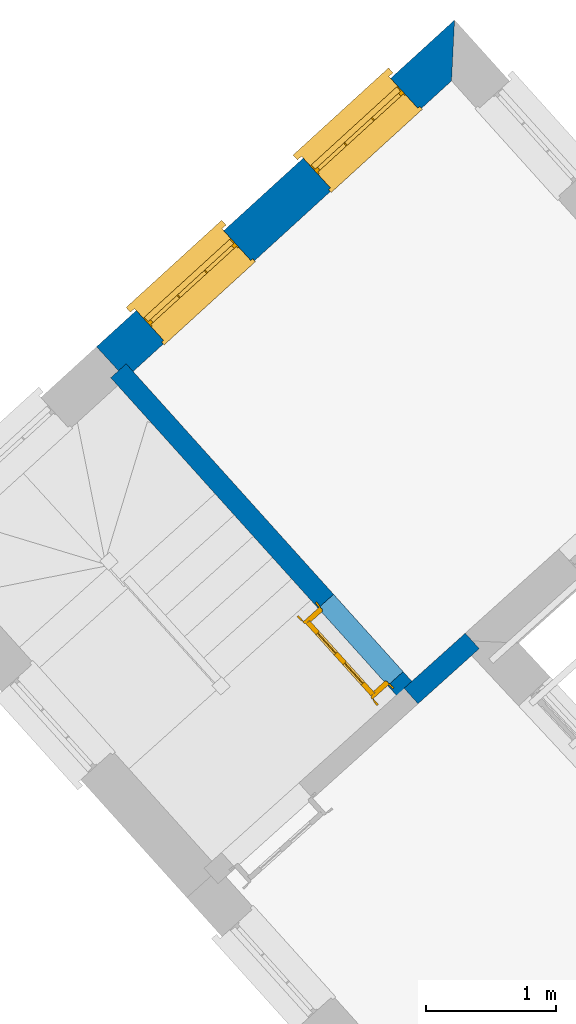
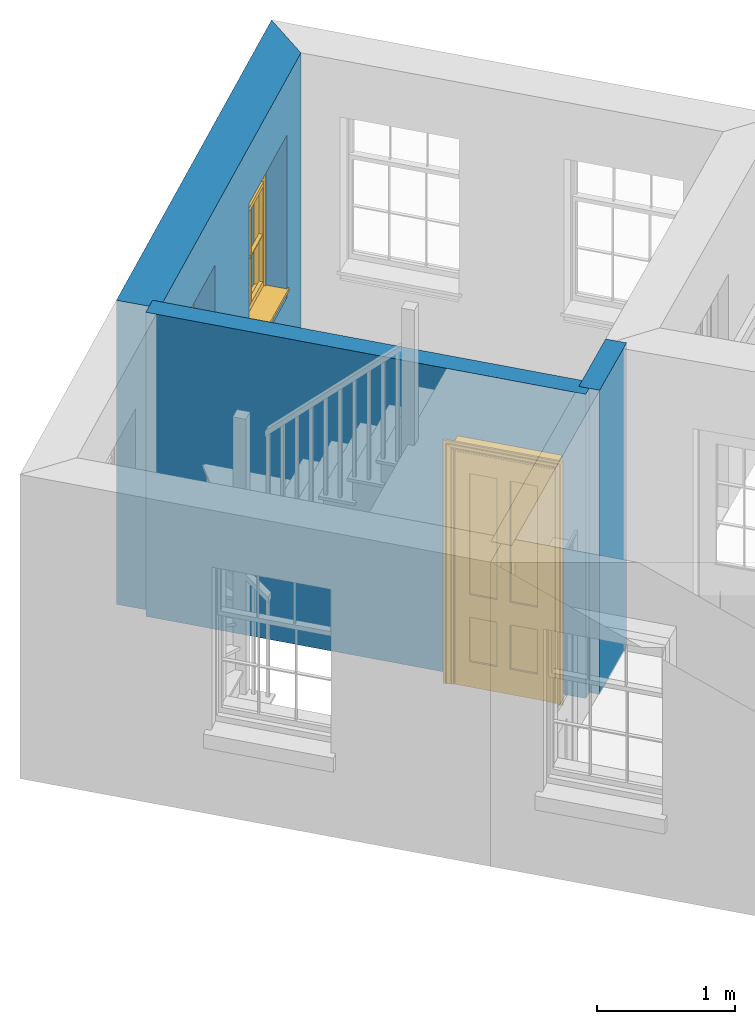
# One storey, part 4 of 7: 3 walls, 2 windows, 1 door, 3 openings.
"""IFC4 building model written with IfcOpenShell, lengths in metres."""

from ifc_helpers import new_model, si_unit, frame, origin, origin_with_axes, place, context, subcontext, project, spatial, polyline, outline, extrude, faceted_brep, source, transform, mapped, material, layer, layer_set, layer_usage, type_object, type_shapes, element, fill, save


model = new_model("IFC4")

# Units and contexts
model_context = context("Model", 3, world=origin_with_axes())
body_context = subcontext(model_context, "Body", "Model", "MODEL_VIEW")
ifc_project = project(units=[si_unit("PLANEANGLEUNIT", "RADIAN"), si_unit("MASSUNIT", "GRAM", prefix="KILO"), si_unit("FORCEUNIT", "NEWTON", prefix="KILO"), si_unit("LENGTHUNIT", "METRE"), si_unit("AREAUNIT", "SQUARE_METRE"), si_unit("VOLUMEUNIT", "CUBIC_METRE")], contexts=[model_context, model_context])

# Sites, building, storey
site_1_placement = place(None, origin_with_axes())
site_1 = spatial("IfcSite", under=ifc_project, at=site_1_placement, Name="Tamar")
site_2_placement = place(site_1_placement, origin_with_axes())
site_2 = spatial("IfcSite", under=site_1, at=site_2_placement, Name="Site plot-7", CompositionType="ELEMENT")
building_placement = place(None, origin_with_axes())
building = spatial("IfcBuilding", under=site_2, at=building_placement, Name="Building plot-7", CompositionType="ELEMENT")
storey_placement = place(None, frame((0.0, 0.0, 29.15), z_axis=(0.0, 0.0, 1.0), x_axis=(1.0, 0.0, 0.0)))
storey = spatial("IfcBuildingStorey", under=building, at=storey_placement, Name="plot-7 1", CompositionType="ELEMENT", Elevation=29.15)

# Wall, openings, windows
ifc_material_1 = material(Name="Masonry")
ifc_layer_1 = layer(ifc_material_1, 0.33, ventilated=False)
ifc_layer_set_1 = layer_set([ifc_layer_1], Name="exterior_0.08_0.25")
ifc_layer_usage_1 = layer_usage(ifc_layer_set_1, "AXIS2", "POSITIVE", -0.25)
wall_type_1 = type_object("IfcWallType", Name="exterior_0.08_0.25", PredefinedType="SOLIDWALL", material=ifc_layer_set_1)
wall_1_placement = place(storey_placement, frame((243.567606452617, 290.872596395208, 0.0), z_axis=(0.0, 0.0, 1.0), x_axis=(-0.738612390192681, -0.674130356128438, 0.0)))
wall_1 = element("IfcWall", 1, at=wall_1_placement, inside=storey, type_object=wall_type_1, material=ifc_layer_usage_1, Name="exterior", context=body_context, shape_type="SweptSolid", body=[
    extrude(outline(polyline([(0.0805717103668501, 0.0799999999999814), (-0.251786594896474, -0.250000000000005), (3.47624042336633, -0.249999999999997), (3.4762404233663, 0.0799999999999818), (0.0805717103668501, 0.0799999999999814)])), origin_with_axes(), (0.0, 0.0, 1.0), 2.7),
])
opening_1_placement = place(wall_1_placement, frame((0.414060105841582, 0.0, 0.75)))
opening_1 = element("IfcOpeningElement", 2, at=opening_1_placement, cuts=wall_1, Name="My Opening", ObjectType="Opening", context=body_context, shape_type="SweptSolid", body=[
    extrude(outline(polyline([(0.0, -0.270000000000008), (0.909999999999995, -0.269999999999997), (0.909999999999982, 1.1), (-1.45439216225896e-14, 1.09999999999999), (0.0, -0.270000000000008)])), origin_with_axes(), (0.0, 0.0, 1.0), 1.445),
])
opening_2_placement = place(wall_1_placement, frame((2.15218031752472, 0.0, 0.75)))
opening_2 = element("IfcOpeningElement", 3, at=opening_2_placement, cuts=wall_1, Name="My Opening", ObjectType="Opening", context=body_context, shape_type="SweptSolid", body=[
    extrude(outline(polyline([(0.0, -0.27000000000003), (0.909999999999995, -0.270000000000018), (0.909999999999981, 1.09999999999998), (-1.4210854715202e-14, 1.09999999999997), (0.0, -0.27000000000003)])), origin_with_axes(), (0.0, 0.0, 1.0), 1.445),
])
window_type = type_object("IfcWindowType", Name="sash_shorter", PartitioningType="DOUBLE_PANEL_HORIZONTAL", PredefinedType="NOTDEFINED")
shared_shape_1 = source(origin(), body_context, "Body", "Brep", [
    faceted_brep([(0.876875, 0.145, 0.999097), (0.876875, 0.145, 1.411875), (0.9, 0.145, 1.435), (0.033125, 0.145, 1.411875), (0.033125, 0.145, 0.999097), (0.01, 0.145, 1.435), (0.033125, 0.115, 1.411875), (0.01, 0.115, 1.435), (0.033125, 0.115, 0.999097), (0.876875, 0.115, 1.411875), (0.876875, 0.115, 0.999097), (0.9, 0.115, 1.435), (0.033125, 0.145, 0.960972), (0.01, 0.145, 0.960972), (0.033125, 0.145, 0.548195), (0.876875, 0.145, 0.960972), (0.876875, 0.145, 0.548195), (0.9, 0.145, 0.960972), (0.876875, 0.145, 0.538195), (0.876875, 0.145, 0.125417), (0.9, 0.145, 0.077167), (0.033125, 0.145, 0.125417), (0.033125, 0.145, 0.538195), (0.01, 0.145, 0.077167), (0.9, 0.115, 0.960972), (0.01, 0.115, 0.960972), (-0.0425, 0.0, 0.01), (-0.0425, -0.05, 0.001667), (0.0, 0.0, 0.01), (0.9525, 0.0, 0.01), (0.91, 0.0, 0.01), (0.9525, -0.05, 0.001667), (-0.02, 0.33, 0.077167), (0.0, 0.33, 0.077167), (-0.02, 0.36, 0.077167), (0.0, 0.19, 0.077167), (0.01, 0.19, 0.077167), (0.91, 0.19, 0.077167), (0.91, 0.33, 0.077167), (0.9, 0.19, 0.077167), (0.93, 0.33, 0.077167), (0.93, 0.36, 0.077167), (0.01, 0.145, 0.999097), (0.01, 0.175, 0.999097), (0.9, 0.145, 0.999097), (0.9, 0.175, 0.999097), (0.876875, 0.175, 0.125417), (0.876875, 0.175, 0.538195), (0.9, 0.175, 0.077167), (0.876875, 0.175, 0.548195), (0.876875, 0.175, 0.960972), (0.033125, 0.175, 0.125417), (0.01, 0.175, 0.077167), (0.033125, 0.175, 0.538195), (0.033125, 0.175, 0.960972), (0.033125, 0.175, 0.548195), (-0.02, 0.33, 0.052167), (-0.02, 0.36, 0.052167), (0.93, 0.36, 0.052167), (0.93, 0.33, 0.052167), (0.91, 0.33, 0.052167), (0.0, 0.33, 0.052167), (0.91, 0.1, 0.026667), (0.0, 0.1, 0.026667), (-0.0425, -0.05, -0.123333), (0.9525, -0.05, -0.123333), (-0.0425, 0.0, -0.123333), (0.9525, 0.0, -0.123333), (0.01, 0.19, 1.435), (0.9, 0.19, 1.435), (0.0, 0.19, 1.445), (0.91, 0.19, 1.445), (0.01, 0.1, 0.077167), (0.9, 0.1, 0.077167), (0.592292, 0.145, 0.125417), (0.592292, 0.175, 0.125417), (0.317708, 0.175, 0.125417), (0.317708, 0.145, 0.125417), (0.592292, 0.145, 0.548195), (0.317708, 0.145, 0.548195), (0.317708, 0.145, 0.538195), (0.592292, 0.145, 0.538195), (0.592292, 0.175, 0.548195), (0.317708, 0.175, 0.548195), (0.602292, 0.175, 0.548195), (0.602292, 0.145, 0.548195), (0.317708, 0.175, 0.538195), (0.307708, 0.175, 0.125417), (0.307708, 0.175, 0.538195), (0.602292, 0.175, 0.538195), (0.602292, 0.175, 0.125417), (0.592292, 0.175, 0.538195), (0.307708, 0.175, 0.548195), (0.317708, 0.175, 0.960972), (0.307708, 0.175, 0.960972), (0.602292, 0.175, 0.960972), (0.592292, 0.175, 0.960972), (0.307708, 0.145, 0.538195), (0.307708, 0.145, 0.125417), (0.307708, 0.145, 0.548195), (0.307708, 0.145, 0.960972), (0.592292, 0.145, 0.960972), (0.317708, 0.145, 0.960972), (0.602292, 0.145, 0.960972), (0.602292, 0.145, 0.538195), (0.602292, 0.145, 0.125417), (0.317708, 0.115, 1.411875), (0.307708, 0.115, 1.411875), (0.307708, 0.115, 0.999097), (0.317708, 0.115, 0.999097), (0.602292, 0.115, 1.411875), (0.592292, 0.115, 1.411875), (0.592292, 0.115, 0.999097), (0.602292, 0.115, 0.999097), (0.317708, 0.145, 0.999097), (0.307708, 0.145, 0.999097), (0.307708, 0.145, 1.411875), (0.317708, 0.145, 1.411875), (0.602292, 0.145, 0.999097), (0.592292, 0.145, 0.999097), (0.592292, 0.145, 1.411875), (0.602292, 0.145, 1.411875), (0.91, 0.1, 1.445), (0.9, 0.1, 1.435), (0.01, 0.1, 1.435), (0.0, 0.1, 1.445), (0.91, 0.0, 0.0), (0.0, 0.0, 0.0), (0.91, 0.33, 0.0), (0.0, 0.33, 0.0)], [[[0, 1, 2]], [[3, 4, 5]], [[6, 7, 8]], [[9, 10, 11]], [[12, 13, 14]], [[15, 16, 17]], [[18, 19, 20]], [[21, 22, 23]], [[24, 15, 17]], [[13, 12, 25]], [[26, 27, 28]], [[29, 30, 31]], [[32, 33, 34]], [[35, 36, 33]], [[37, 38, 39]], [[40, 41, 38]], [[42, 4, 43]], [[44, 45, 0]], [[46, 47, 48]], [[49, 50, 45]], [[51, 52, 53]], [[54, 55, 43]], [[38, 33, 36, 39]], [[41, 34, 33, 38]], [[56, 32, 34, 57]], [[57, 34, 41, 58]], [[58, 41, 40, 59]], [[57, 58, 60, 61]], [[52, 48, 39, 36]], [[62, 63, 28, 30]], [[27, 31, 30, 28]], [[27, 64, 65, 31]], [[66, 67, 65, 64]], [[2, 5, 68, 69]], [[68, 70, 71, 69]], [[20, 23, 72, 73]], [[73, 72, 63, 62]], [[74, 75, 76, 77]], [[78, 79, 80, 81]], [[78, 82, 83, 79]], [[16, 49, 84, 85]], [[86, 76, 87, 88]], [[89, 90, 75, 91]], [[92, 88, 53, 55]], [[82, 91, 86, 83]], [[93, 83, 92, 94]], [[95, 84, 82, 96]], [[89, 84, 49, 47]], [[97, 88, 87, 98]], [[22, 53, 88, 97]], [[81, 91, 75, 74]], [[80, 86, 91, 81]], [[77, 76, 86, 80]], [[99, 92, 55, 14]], [[100, 94, 92, 99]], [[101, 96, 82, 78]], [[79, 83, 93, 102]], [[85, 84, 95, 103]], [[104, 89, 47, 18]], [[105, 90, 89, 104]], [[104, 18, 16, 85]], [[80, 97, 98, 77]], [[104, 81, 74, 105]], [[103, 101, 78, 85]], [[99, 14, 22, 97]], [[102, 100, 99, 79]], [[106, 107, 108, 109]], [[110, 111, 112, 113]], [[114, 115, 116, 117]], [[118, 119, 120, 121]], [[107, 116, 115, 108]], [[111, 120, 119, 112]], [[109, 114, 117, 106]], [[113, 118, 121, 110]], [[85, 78, 81, 104]], [[84, 89, 91, 82]], [[83, 86, 88, 92]], [[79, 99, 97, 80]], [[109, 112, 119, 114]], [[102, 93, 96, 101]], [[106, 117, 120, 111]], [[98, 87, 51, 21]], [[6, 3, 116, 107]], [[110, 121, 1, 9]], [[19, 46, 90, 105]], [[26, 66, 64, 27]], [[29, 31, 65, 67]], [[25, 24, 112, 109]], [[11, 7, 106, 111]], [[75, 48, 52, 76]], [[43, 45, 96, 93]], [[45, 43, 114, 119]], [[5, 2, 120, 117]], [[24, 25, 102, 101]], [[42, 5, 4]], [[2, 44, 0]], [[49, 45, 48, 47]], [[52, 43, 55, 53]], [[14, 13, 23, 22]], [[20, 17, 16, 18]], [[24, 11, 10]], [[25, 8, 7]], [[8, 4, 3, 6]], [[9, 1, 0, 10]], [[15, 50, 49, 16]], [[18, 47, 46, 19]], [[21, 51, 53, 22]], [[14, 55, 54, 12]], [[44, 2, 69, 45]], [[68, 5, 42, 43]], [[36, 35, 70, 68]], [[39, 69, 71, 37]], [[62, 122, 123, 73]], [[63, 72, 124, 125]], [[8, 108, 115, 4]], [[113, 10, 0, 118]], [[94, 100, 12, 54]], [[17, 20, 73, 24]], [[72, 23, 13, 25]], [[52, 36, 68, 43]], [[69, 39, 48, 45]], [[11, 24, 73, 123]], [[7, 124, 72, 25]], [[23, 77, 98]], [[98, 21, 23]], [[105, 74, 20]], [[20, 19, 105]], [[20, 74, 77, 23]], [[113, 112, 24]], [[24, 10, 113]], [[25, 109, 108]], [[108, 8, 25]], [[110, 9, 11]], [[11, 111, 110]], [[7, 6, 107]], [[107, 106, 7]], [[5, 117, 116]], [[116, 3, 5]], [[121, 120, 2]], [[2, 1, 121]], [[11, 123, 124, 7]], [[122, 125, 124, 123]], [[43, 93, 94]], [[94, 54, 43]], [[96, 45, 95]], [[50, 95, 45]], [[15, 103, 95, 50]], [[48, 75, 90]], [[90, 46, 48]], [[87, 76, 52]], [[52, 51, 87]], [[103, 15, 24]], [[24, 101, 103]], [[100, 102, 25]], [[25, 12, 100]], [[115, 114, 43]], [[43, 4, 115]], [[118, 0, 45]], [[45, 119, 118]], [[71, 70, 125, 122]], [[70, 35, 63, 125]], [[122, 62, 37, 71]], [[126, 67, 66, 127]], [[60, 58, 59]], [[38, 60, 59, 40]], [[61, 56, 57]], [[32, 56, 61, 33]], [[61, 60, 128, 129]], [[62, 60, 38, 37]], [[126, 128, 60, 62]], [[33, 61, 63, 35]], [[61, 129, 127, 63]], [[128, 126, 127, 129]], [[28, 127, 66, 26]], [[63, 127, 28]], [[29, 67, 126, 30]], [[30, 126, 62]]]),
])
type_shapes(window_type, [shared_shape_1])
window_1_placement = place(storey_placement, frame((243.079761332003, 290.79289125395, 0.75), z_axis=(0.0, 0.0, 1.0), x_axis=(-0.672137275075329, -0.613458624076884, 0.0)))
window_1 = element("IfcWindow", 4, at=window_1_placement, inside=storey, type_object=window_type, Name="bedroom outside window", OverallHeight=1.445, OverallWidth=0.91, context=body_context, shape_type="MappedRepresentation", body=[
    mapped(shared_shape_1, transform((0.0, 0.0, 0.0), scale=1.0)),
])
fill(opening_1, window_1)
window_2_placement = place(storey_placement, frame((241.79596420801, 289.621171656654, 0.75), z_axis=(0.0, 0.0, 1.0), x_axis=(-0.672137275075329, -0.613458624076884, 0.0)))
window_2 = element("IfcWindow", 5, at=window_2_placement, inside=storey, type_object=window_type, Name="bedroom outside window", OverallHeight=1.445, OverallWidth=0.91, context=body_context, shape_type="MappedRepresentation", body=[
    mapped(shared_shape_1, transform((0.0, 0.0, 0.0), scale=1.0)),
])
fill(opening_2, window_2)

# Wall, opening, door
ifc_material_2 = material(Name="Masonry")
ifc_layer_2 = layer(ifc_material_2, 0.16, ventilated=False)
ifc_layer_set_2 = layer_set([ifc_layer_2], Name="interior_0.08_0.08")
ifc_layer_usage_2 = layer_usage(ifc_layer_set_2, "AXIS2", "POSITIVE", -0.08)
wall_type_2 = type_object("IfcWallType", Name="interior_0.08_0.08", PredefinedType="SOLIDWALL", material=ifc_layer_set_2)
wall_2_placement = place(storey_placement, frame((243.250490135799, 286.027875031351, 0.0), z_axis=(0.0, 0.0, 1.0), x_axis=(-0.668853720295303, 0.743394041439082, 0.0)))
wall_2 = element("IfcWall", 6, at=wall_2_placement, inside=storey, type_object=wall_type_2, material=ifc_layer_usage_2, Name="interior", context=body_context, shape_type="SweptSolid", body=[
    extrude(outline(polyline([(-1.04756067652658e-14, 0.080000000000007), (1.0467640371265e-14, -0.080000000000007), (3.36467879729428, -0.0800000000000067), (3.36467879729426, 0.0800000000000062), (-1.04756067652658e-14, 0.080000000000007)])), origin_with_axes(), (0.0, 0.0, 1.0), 2.7),
])
opening_3_placement = place(wall_2_placement, frame((0.179999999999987, 0.0, 0.0199999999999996)))
opening_3 = element("IfcOpeningElement", 7, at=opening_3_placement, cuts=wall_2, Name="My Opening", ObjectType="Opening", context=body_context, shape_type="SweptSolid", body=[
    extrude(outline(polyline([(0.0, -0.0999999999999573), (0.800000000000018, -0.0999999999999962), (0.80000000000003, 1.09999999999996), (1.2267964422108e-14, 1.1), (0.0, -0.0999999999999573)])), origin_with_axes(), (0.0, 0.0, 1.0), 2.1),
])
door_type = type_object("IfcDoorType", Name="door_inside", OperationType="SINGLE_SWING_LEFT", PredefinedType="NOTDEFINED")
shared_shape_2 = source(origin(), body_context, "Body", "Brep", [
    faceted_brep([(0.773, 0.33, 1.895), (0.66, 0.33, 1.895), (0.66, 0.33, 2.073), (0.773, 0.33, 2.073), (0.773, 0.33, 0.82), (0.66, 0.33, 0.82), (0.45, 0.33, 1.895), (0.45, 0.33, 2.073), (0.773, 0.33, 0.62), (0.66, 0.33, 0.62), (0.66, 0.315, 0.82), (0.66, 0.315, 1.895), (0.45, 0.315, 1.895), (0.35, 0.33, 1.895), (0.35, 0.33, 2.073), (0.773, 0.33, 0.225), (0.66, 0.33, 0.225), (0.45, 0.33, 0.62), (0.45, 0.33, 0.82), (0.45, 0.315, 0.82), (0.35, 0.33, 0.82), (0.14, 0.33, 2.073), (0.14, 0.33, 1.895), (0.773, 0.33, 0.0), (0.66, 0.33, 0.0), (0.66, 0.315, 0.225), (0.66, 0.315, 0.62), (0.45, 0.315, 0.62), (0.35, 0.33, 0.62), (0.35, 0.315, 0.82), (0.35, 0.315, 1.895), (0.14, 0.315, 1.895), (0.027, 0.33, 2.073), (0.027, 0.33, 1.895), (0.773, 0.292, 0.0), (0.66, 0.292, 0.0), (0.45, 0.33, 0.0), (0.45, 0.33, 0.225), (0.45, 0.315, 0.225), (0.35, 0.33, 0.225), (0.14, 0.33, 0.82), (0.14, 0.33, 0.62), (0.14, 0.315, 0.82), (0.027, 0.33, 0.82), (0.773, 0.292, 0.225), (0.66, 0.292, 0.225), (0.45, 0.292, 0.0), (0.35, 0.33, 0.0), (0.35, 0.315, 0.225), (0.35, 0.315, 0.62), (0.14, 0.315, 0.62), (0.027, 0.33, 0.62), (0.773, 0.292, 0.62), (0.66, 0.292, 0.62), (0.45, 0.292, 0.225), (0.35, 0.292, 0.0), (0.14, 0.33, 0.225), (0.14, 0.33, 0.0), (0.14, 0.315, 0.225), (0.027, 0.33, 0.225), (0.773, 0.292, 0.82), (0.66, 0.292, 0.82), (0.66, 0.307, 0.62), (0.66, 0.307, 0.225), (0.45, 0.307, 0.225), (0.35, 0.292, 0.225), (0.14, 0.292, 0.0), (0.027, 0.33, 0.0), (0.773, 0.292, 1.895), (0.66, 0.292, 1.895), (0.45, 0.292, 0.62), (0.45, 0.292, 0.82), (0.45, 0.307, 0.62), (0.35, 0.292, 0.62), (0.14, 0.292, 0.225), (0.027, 0.292, 0.0), (0.773, 0.292, 2.073), (0.66, 0.292, 2.073), (0.66, 0.307, 1.895), (0.66, 0.307, 0.82), (0.45, 0.307, 0.82), (0.35, 0.292, 0.82), (0.35, 0.307, 0.62), (0.35, 0.307, 0.225), (0.14, 0.307, 0.225), (0.027, 0.292, 0.225), (0.45, 0.292, 1.895), (0.45, 0.292, 2.073), (0.45, 0.307, 1.895), (0.35, 0.292, 1.895), (0.14, 0.292, 0.82), (0.14, 0.292, 0.62), (0.14, 0.307, 0.62), (0.027, 0.292, 0.62), (0.35, 0.292, 2.073), (0.35, 0.307, 1.895), (0.35, 0.307, 0.82), (0.14, 0.307, 0.82), (0.027, 0.292, 0.82), (0.14, 0.292, 2.073), (0.14, 0.292, 1.895), (0.14, 0.307, 1.895), (0.027, 0.292, 1.895), (0.027, 0.292, 2.073), (0.02, 0.335, 0.0), (0.005, 0.34, 0.0), (0.005, 0.34, 2.095), (0.02, 0.335, 2.08), (0.02, 0.33, 0.0), (0.0, 0.335, 0.0), (0.0, 0.335, 2.1), (0.795, 0.34, 2.095), (0.78, 0.335, 2.08), (0.02, 0.33, 2.08), (0.0, 0.33, 0.0), (-0.032, 0.345, 0.0), (-0.032, 0.345, 2.132), (0.8, 0.335, 2.1), (0.795, 0.34, 0.0), (0.78, 0.335, 0.0), (0.78, 0.33, 2.08), (0.04, 0.29, 0.0), (0.025, 0.29, 0.0), (0.025, 0.29, 2.075), (0.04, 0.29, 2.06), (-0.04, 0.34, 0.0), (-0.04, 0.34, 2.14), (0.832, 0.345, 2.132), (0.8, 0.335, 0.0), (0.78, 0.33, 0.0), (0.8, 0.33, 0.0), (0.86, 0.33, 0.0), (0.86, 0.33, 2.16), (0.8, 0.33, 2.1), (-0.06, 0.33, 2.16), (0.0, 0.33, 2.1), (-0.06, 0.33, 0.0), (-0.04, 0.345, 0.0), (-0.04, 0.345, 2.14), (0.84, 0.34, 2.14), (0.832, 0.345, 0.0), (0.84, 0.34, 0.0), (0.86, 0.345, 0.0), (0.86, 0.345, 2.16), (-0.06, 0.345, 2.16), (-0.06, 0.345, 0.0), (0.84, 0.345, 0.0), (0.84, 0.345, 2.14), (-0.025, 0.155, 0.0), (-0.025, 0.16, 0.0), (-0.025, 0.16, 2.125), (-0.025, 0.155, 2.125), (-0.017, 0.155, 0.0), (-0.017, 0.155, 2.117), (0.825, 0.16, 2.125), (0.825, 0.155, 2.125), (0.825, 0.155, 0.0), (0.845, 0.155, 0.0), (-0.045, 0.155, 2.145), (-0.045, 0.155, 0.0), (0.845, 0.155, 2.145), (0.015, 0.165, 0.0), (0.015, 0.165, 2.085), (0.817, 0.155, 2.117), (0.825, 0.16, 0.0), (0.845, 0.17, 0.0), (0.845, 0.17, 2.145), (-0.045, 0.17, 2.145), (-0.045, 0.17, 0.0), (0.02, 0.16, 0.0), (0.02, 0.16, 2.08), (0.785, 0.165, 2.085), (0.817, 0.155, 0.0), (0.8, 0.17, 0.0), (0.8, 0.17, 2.1), (0.0, 0.17, 2.1), (0.0, 0.17, 0.0), (0.035, 0.165, 0.0), (0.035, 0.165, 2.065), (0.78, 0.16, 2.08), (0.785, 0.165, 0.0), (0.775, 0.29, 2.075), (0.76, 0.29, 2.06), (0.035, 0.17, 2.065), (0.035, 0.17, 0.0), (0.765, 0.165, 2.065), (0.78, 0.16, 0.0), (0.765, 0.17, 0.0), (0.765, 0.17, 2.065), (0.765, 0.165, 0.0), (0.04, 0.17, 2.06), (0.04, 0.17, 0.0), (0.76, 0.17, 2.06), (0.76, 0.17, 0.0), (0.76, 0.29, 0.0), (0.775, 0.29, 0.0), (0.025, 0.33, 0.0), (0.025, 0.33, 2.075), (0.775, 0.33, 0.0), (0.775, 0.33, 2.075)], [[[0, 1, 2, 3]], [[1, 0, 4, 5]], [[1, 6, 7, 2]], [[8, 9, 5, 4]], [[1, 5, 10, 11]], [[6, 1, 11, 12]], [[6, 13, 14, 7]], [[15, 16, 9, 8]], [[9, 17, 18, 5]], [[5, 18, 19, 10]], [[10, 19, 12, 11]], [[18, 6, 12, 19]], [[18, 20, 13, 6]], [[21, 14, 13, 22]], [[23, 24, 16, 15]], [[9, 16, 25, 26]], [[17, 9, 26, 27]], [[17, 28, 20, 18]], [[13, 20, 29, 30]], [[22, 13, 30, 31]], [[32, 21, 22, 33]], [[34, 35, 24, 23]], [[24, 36, 37, 16]], [[16, 37, 38, 25]], [[25, 38, 27, 26]], [[37, 17, 27, 38]], [[37, 39, 28, 17]], [[40, 20, 28, 41]], [[20, 40, 42, 29]], [[31, 30, 29, 42]], [[40, 22, 31, 42]], [[33, 22, 40, 43]], [[35, 34, 44, 45]], [[35, 46, 36, 24]], [[36, 47, 39, 37]], [[28, 39, 48, 49]], [[41, 28, 49, 50]], [[43, 40, 41, 51]], [[45, 44, 52, 53]], [[46, 35, 45, 54]], [[46, 55, 47, 36]], [[56, 39, 47, 57]], [[39, 56, 58, 48]], [[50, 49, 48, 58]], [[56, 41, 50, 58]], [[51, 41, 56, 59]], [[53, 52, 60, 61]], [[45, 53, 62, 63]], [[54, 45, 63, 64]], [[55, 46, 54, 65]], [[55, 66, 57, 47]], [[59, 56, 57, 67]], [[61, 60, 68, 69]], [[70, 53, 61, 71]], [[53, 70, 72, 62]], [[72, 64, 63, 62]], [[70, 54, 64, 72]], [[65, 54, 70, 73]], [[65, 74, 66, 55]], [[67, 57, 66, 75]], [[69, 68, 76, 77]], [[61, 69, 78, 79]], [[71, 61, 79, 80]], [[73, 70, 71, 81]], [[65, 73, 82, 83]], [[74, 65, 83, 84]], [[74, 85, 75, 66]], [[86, 69, 77, 87]], [[69, 86, 88, 78]], [[88, 80, 79, 78]], [[86, 71, 80, 88]], [[81, 71, 86, 89]], [[73, 81, 90, 91]], [[73, 91, 92, 82]], [[83, 82, 92, 84]], [[91, 74, 84, 92]], [[91, 93, 85, 74]], [[89, 86, 87, 94]], [[81, 89, 95, 96]], [[90, 81, 96, 97]], [[90, 98, 93, 91]], [[94, 99, 100, 89]], [[89, 100, 101, 95]], [[101, 97, 96, 95]], [[100, 90, 97, 101]], [[100, 102, 98, 90]], [[99, 103, 102, 100]], [[32, 103, 99, 21]], [[102, 103, 32, 33]], [[98, 102, 33, 43]], [[21, 99, 94, 14]], [[94, 87, 7, 14]], [[7, 87, 77, 2]], [[76, 3, 2, 77]], [[43, 51, 93, 98]], [[51, 59, 85, 93]], [[67, 75, 85, 59]], [[34, 23, 15, 44]], [[44, 15, 8, 52]], [[52, 8, 4, 60]], [[0, 68, 60, 4]], [[0, 3, 76, 68]], [[104, 105, 106, 107]], [[104, 108, 109, 105]], [[105, 109, 110, 106]], [[107, 106, 111, 112]], [[107, 113, 108, 104]], [[114, 109, 108]], [[109, 115, 116, 110]], [[106, 110, 117, 111]], [[112, 111, 118, 119]], [[113, 107, 112, 120]], [[121, 122, 123, 124]], [[115, 109, 114, 125]], [[115, 125, 126, 116]], [[110, 116, 127, 117]], [[111, 117, 128, 118]], [[118, 128, 129, 119]], [[120, 112, 119, 129]], [[130, 129, 128]], [[130, 131, 132, 133]], [[133, 132, 134, 135]], [[135, 134, 136, 114]], [[136, 125, 114]], [[125, 137, 138, 126]], [[116, 126, 139, 127]], [[117, 127, 140, 128]], [[141, 130, 128, 140]], [[131, 130, 141]], [[131, 142, 143, 132]], [[132, 143, 144, 134]], [[134, 144, 145, 136]], [[137, 125, 136, 145]], [[143, 142, 146]], [[143, 146, 147]], [[137, 145, 144]], [[143, 147, 138]], [[138, 137, 144]], [[143, 138, 144]], [[126, 138, 147, 139]], [[127, 139, 141, 140]], [[142, 131, 141, 146]], [[139, 147, 146, 141]], [[148, 149, 150, 151]], [[149, 152, 153, 150]], [[151, 150, 154, 155]], [[155, 156, 157]], [[158, 159, 148]], [[158, 148, 151]], [[155, 157, 160]], [[158, 151, 155]], [[155, 160, 158]], [[152, 161, 162, 153]], [[150, 153, 163, 154]], [[155, 154, 164, 156]], [[156, 164, 165, 157]], [[157, 165, 166, 160]], [[160, 166, 167, 158]], [[158, 167, 168, 159]], [[161, 169, 170, 162]], [[153, 162, 171, 163]], [[154, 163, 172, 164]], [[165, 164, 173]], [[165, 173, 174, 166]], [[166, 174, 175, 167]], [[167, 175, 176, 168]], [[169, 177, 178, 170]], [[162, 170, 179, 171]], [[163, 171, 180, 172]], [[172, 180, 173, 164]], [[124, 123, 181, 182]], [[183, 178, 177, 184]], [[170, 178, 185, 179]], [[171, 179, 186, 180]], [[187, 173, 180]], [[185, 188, 187, 189]], [[188, 185, 178, 183]], [[179, 185, 189, 186]], [[189, 187, 180, 186]], [[190, 183, 184, 191]], [[192, 188, 183, 190]], [[191, 184, 122, 121]], [[124, 190, 191, 121]], [[193, 187, 188, 192]], [[182, 192, 190, 124]], [[184, 176, 122]], [[194, 195, 187, 193]], [[192, 182, 194, 193]], [[161, 176, 184]], [[114, 108, 122, 176]], [[173, 187, 195]], [[152, 149, 176, 161]], [[169, 161, 184, 177]], [[196, 122, 108]], [[176, 175, 135, 114]], [[173, 195, 129, 130]], [[176, 149, 168]], [[123, 122, 196, 197]], [[196, 108, 113, 197]], [[175, 174, 133, 135]], [[198, 129, 195]], [[133, 174, 173, 130]], [[159, 168, 149, 148]], [[181, 123, 197, 199]], [[197, 113, 120, 199]], [[199, 120, 129, 198]], [[195, 181, 199, 198]], [[195, 194, 182, 181]]]),
])
type_shapes(door_type, [shared_shape_2])
door_placement = place(storey_placement, frame((243.20443587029, 286.22857133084, 0.0199999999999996), z_axis=(0.0, 0.0, 1.0), x_axis=(-0.535082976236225, 0.594715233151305, 0.0)))
door = element("IfcDoor", 8, at=door_placement, inside=storey, type_object=door_type, Name="bedroom inside door", OverallHeight=2.1, OverallWidth=0.8, context=body_context, shape_type="MappedRepresentation", body=[
    mapped(shared_shape_2, transform((0.0, 0.0, 0.0), scale=1.0)),
])
fill(opening_3, door)

# Wall
wall_3_placement = place(storey_placement, frame((243.250490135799, 286.027875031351, 0.0), z_axis=(0.0, 0.0, 1.0), x_axis=(0.743394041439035, 0.668853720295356, 0.0)))
element("IfcWall", 9, at=wall_3_placement, inside=storey, type_object=wall_type_2, material=ifc_layer_usage_2, Name="interior", context=body_context, shape_type="SweptSolid", body=[
    extrude(outline(polyline([(-2.37449923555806e-14, 0.0799999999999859), (2.37725530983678e-14, -0.0799999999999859), (0.633151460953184, -0.0799999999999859), (0.633151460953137, 0.079999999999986), (-2.37449923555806e-14, 0.0799999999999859)])), origin_with_axes(), (0.0, 0.0, 1.0), 2.7),
])

save(model, "model.ifc")
